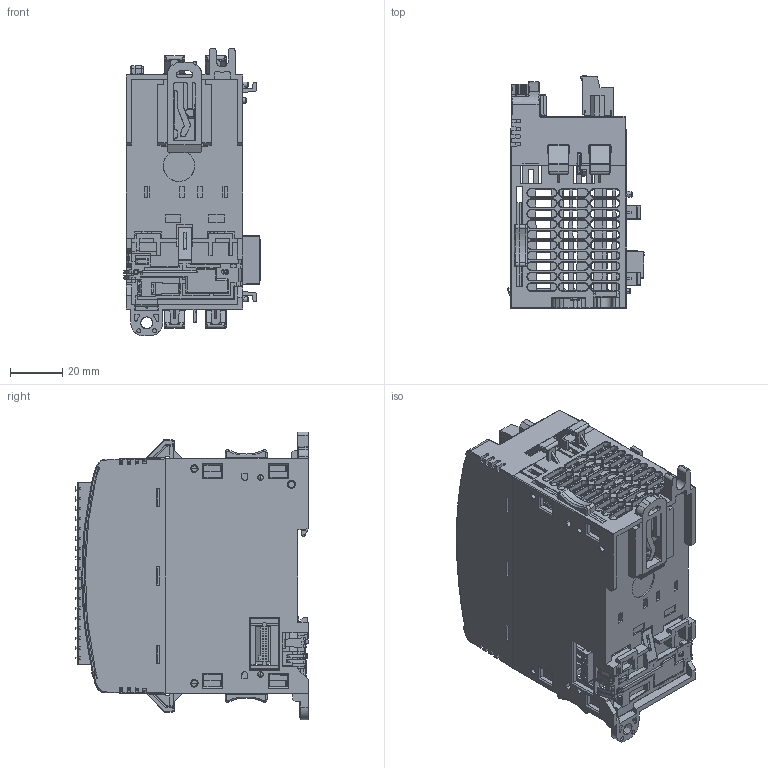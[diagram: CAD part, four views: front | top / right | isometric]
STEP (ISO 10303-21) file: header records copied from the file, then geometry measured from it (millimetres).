
FILE_DESCRIPTION (( 'STEP AP203' ), '1' );
FILE_NAME ('2085-IF40F4.STEP', '2021-12-30T01:53:05', ( '' ), ( '' ), 'SwSTEP 2.0', 'SolidWorks 2021', '' );
FILE_SCHEMA (( 'CONFIG_CONTROL_DESIGN' ));
Length unit declared in the file: millimetre
Products named in the file (11): TFM_110_11_H_D_5; 2085_LED; SFM_110_01_L_D_5; SFM_110_01_L_D_3; EB1388-18-500.stp; TFM_110_11_H_D_3; 2085-BASE.stp; 2085-IF40F4; SFM_110_01_L_D; 1400236-01.stp; TFM_110_11_H_D
Assembly tree (10 placements, depth 3):
  2085-IF40F4
    2085-BASE.stp
    1400236-01.stp
    TFM_110_11_H_D
      TFM_110_11_H_D_3
      TFM_110_11_H_D_5
    EB1388-18-500.stp
    SFM_110_01_L_D
      SFM_110_01_L_D_3
      SFM_110_01_L_D_5
    2085_LED
Bounding box: 52.2 x 88.8 x 110 mm (x, y, z)
Volume: 33517.1 mm3; surface area: 83576.7 mm2
Topology: 9 solids, 48 shells, 5851 faces, 16473 edges, 10696 vertices
Faces by surface type: plane 4351, bspline 770, cylinder 671, cone 36, sphere 18, torus 5
Entity records: 235847 total; most frequent: CARTESIAN_POINT 100506, ORIENTED_EDGE 32876, DIRECTION 19774, EDGE_CURVE 16444, VERTEX_POINT 10696, VECTOR 8168, LINE 8168, B_SPLINE_CURVE_WITH_KNOTS 7297
